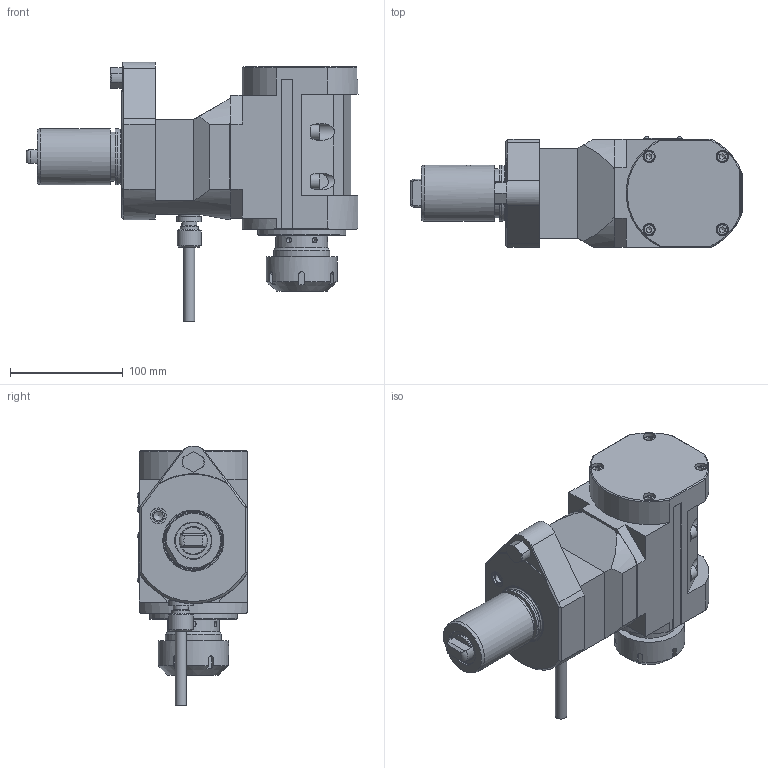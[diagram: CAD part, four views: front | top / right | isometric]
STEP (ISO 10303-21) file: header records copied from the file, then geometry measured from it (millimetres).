
FILE_DESCRIPTION(/* description */ (''),/* implementation_level */ '2;1');
FILE_NAME(/* name */ '124641',/* time_stamp */ '2020-03-05T08:51:30+01:00',/* author */ (''),/* organization */ (''),/* preprocessor_version */ 'ST-DEVELOPER v16.5',/* originating_system */ 'HiCAD 2017 2201.0 Build 268',/* authorisation */ '');
FILE_SCHEMA (('AUTOMOTIVE_DESIGN { 1 0 10303 214 1 1 1 1 }'));
Products named in the file (11): Root; Teil; ABCDEFGHIJKLMNOPQRSTUVWXYZ[\]^_`ABCDEFGHIJKLMNOP荐֒Ȱ; DIN 76-M8
Assembly tree (10 placements, depth 3):
  Root
    Teil
      ABCDEFGHIJKLMNOPQRSTUVWXYZ[\]^_`ABCDEFGHIJKLMNOP荐֒Ȱ
      ABCDEFGHIJKLMNOPQRSTUVWXYZ[\]^_`ABCDEFGHIJKLMNOP荐֒Ȱ
      ABCDEFGHIJKLMNOPQRSTUVWXYZ[\]^_`ABCDEFGHIJKLMNOP荐֒Ȱ
      ABCDEFGHIJKLMNOPQRSTUVWXYZ[\]^_`ABCDEFGHIJKLMNOP荐֒Ȱ
      ABCDEFGHIJKLMNOPQRSTUVWXYZ[\]^_`ABCDEFGHIJKLMNOP荐֒Ȱ
      ABCDEFGHIJKLMNOPQRSTUVWXYZ[\]^_`ABCDEFGHIJKLMNOP荐֒Ȱ
      ABCDEFGHIJKLMNOPQRSTUVWXYZ[\]^_`ABCDEFGHIJKLMNOP荐֒Ȱ
      ABCDEFGHIJKLMNOPQRSTUVWXYZ[\]^_`ABCDEFGHIJKLMNOP荐֒Ȱ
      DIN 76-M8
Bounding box: 295 x 98.3 x 230.66 mm (x, y, z)
Volume: 2317187.6 mm3; surface area: 181017.5 mm2
Topology: 10 solids, 31 shells, 800 faces, 2033 edges, 1336 vertices
Faces by surface type: plane 498, cylinder 187, cone 55, bspline 38, torus 14, sphere 8
Full cylindrical faces by diameter (mm): 2 x8, 2.2 x8, 5 x6, 6 x8, 6.466 x8, 6.6 x4, 6.8 x2, 7 x1, 8 x11, 8.5 x1, 9 x4, 10 x7, 10.82 x1, 11 x4, 11.5 x1, 12.3 x1, 13 x3, 13.5 x1, 14.18 x1, 14.27 x1, 14.272 x1, 16 x1, 18.5 x1, 21.5 x1, 21.8 x1, 25 x1, 30.5 x2, 32 x1, 33.6 x1, 37.1 x1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
Entity records: 54476 total; most frequent: CARTESIAN_POINT 15075, PRESENTATION_STYLE_ASSIGNMENT 4039, OVER_RIDING_STYLED_ITEM 4029, DIRECTION 3776, DRAUGHTING_PRE_DEFINED_CURVE_FONT 3600, CURVE_STYLE 3600, ORIENTED_EDGE 3600, COLOUR_RGB 3592
